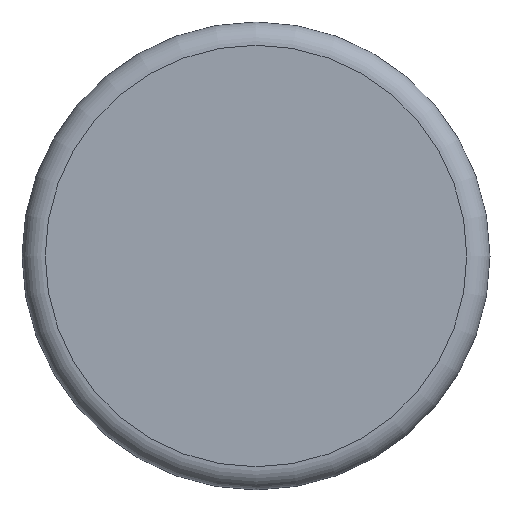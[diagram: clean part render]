
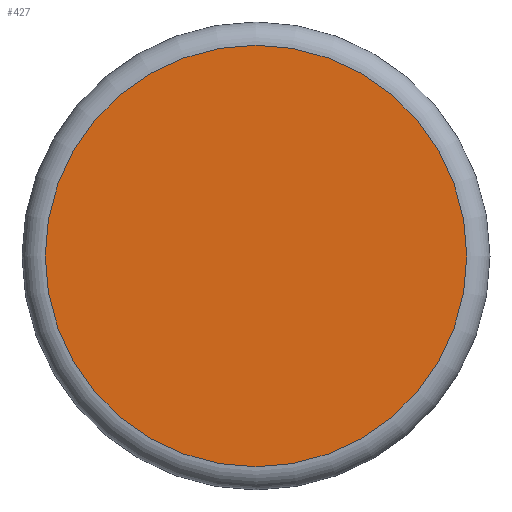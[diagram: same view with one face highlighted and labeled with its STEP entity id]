
A CAD part, left-side view. The second image highlights one B-rep face of the part: STEP entity #427.
In plain terms, the highlighted planar face has unit normal (-1, 0, 0).
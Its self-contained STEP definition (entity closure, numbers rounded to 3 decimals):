
#48=FACE_OUTER_BOUND('',#69,.T.);
#69=EDGE_LOOP('',(#281,#282));
#92=CIRCLE('',#469,1.153);
#93=CIRCLE('',#470,1.153);
#156=VERTEX_POINT('',#734);
#157=VERTEX_POINT('',#735);
#210=EDGE_CURVE('',#156,#157,#92,.T.);
#211=EDGE_CURVE('',#157,#156,#93,.T.);
#281=ORIENTED_EDGE('',*,*,#210,.F.);
#282=ORIENTED_EDGE('',*,*,#211,.F.);
#423=PLANE('',#468);
#427=ADVANCED_FACE('',(#48),#423,.T.);
#468=AXIS2_PLACEMENT_3D('',#733,#555,#556);
#469=AXIS2_PLACEMENT_3D('',#736,#557,#558);
#470=AXIS2_PLACEMENT_3D('',#737,#559,#560);
#555=DIRECTION('center_axis',(-1.,0.,0.));
#556=DIRECTION('ref_axis',(0.,0.,1.));
#557=DIRECTION('center_axis',(1.,0.,0.));
#558=DIRECTION('ref_axis',(0.,0.,-1.));
#559=DIRECTION('center_axis',(1.,0.,0.));
#560=DIRECTION('ref_axis',(0.,0.,-1.));
#733=CARTESIAN_POINT('Origin',(0.,1.153,0.));
#734=CARTESIAN_POINT('',(0.,1.153,0.));
#735=CARTESIAN_POINT('',(0.,0.,1.153));
#736=CARTESIAN_POINT('Origin',(0.,0.,0.));
#737=CARTESIAN_POINT('Origin',(0.,0.,0.));
